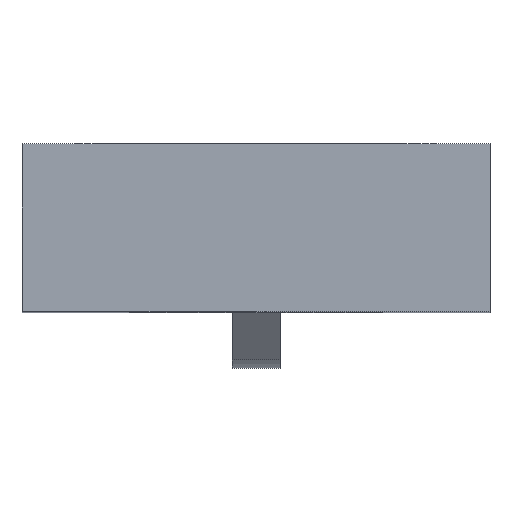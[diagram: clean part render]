
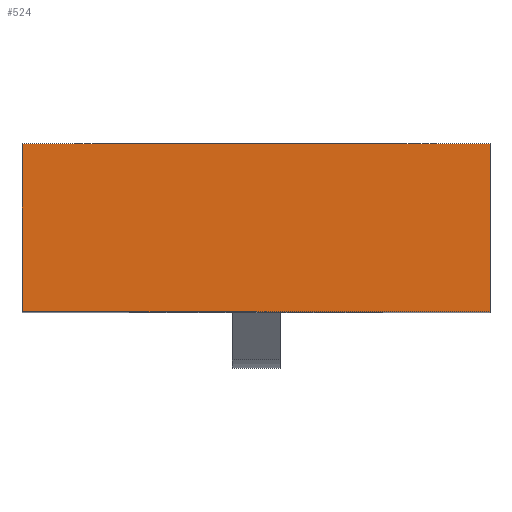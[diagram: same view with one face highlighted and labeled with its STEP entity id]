
A CAD part, top view. The second image highlights one B-rep face of the part: STEP entity #524.
In plain terms, the highlighted planar face has unit normal (0, 0, 1).
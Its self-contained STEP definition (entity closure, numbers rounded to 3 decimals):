
#220 = EDGE_CURVE('',#221,#223,#225,.T.);
#221 = VERTEX_POINT('',#222);
#222 = CARTESIAN_POINT('',(6.44,-1.298,20.003));
#223 = VERTEX_POINT('',#224);
#224 = CARTESIAN_POINT('',(-1.36,-1.298,20.003));
#225 = LINE('',#226,#227);
#226 = CARTESIAN_POINT('',(2.54,-1.298,20.003));
#227 = VECTOR('',#228,1.);
#228 = DIRECTION('',(-1.,0.,0.));
#498 = EDGE_CURVE('',#223,#499,#501,.T.);
#499 = VERTEX_POINT('',#500);
#500 = CARTESIAN_POINT('',(-1.36,1.503,20.003));
#501 = LINE('',#502,#503);
#502 = CARTESIAN_POINT('',(-1.36,-1.298,20.003));
#503 = VECTOR('',#504,1.);
#504 = DIRECTION('',(0.,1.,0.));
#524 = ADVANCED_FACE('',(#525),#543,.T.);
#525 = FACE_BOUND('',#526,.T.);
#526 = EDGE_LOOP('',(#527,#528,#536,#542));
#527 = ORIENTED_EDGE('',*,*,#220,.F.);
#528 = ORIENTED_EDGE('',*,*,#529,.T.);
#529 = EDGE_CURVE('',#221,#530,#532,.T.);
#530 = VERTEX_POINT('',#531);
#531 = CARTESIAN_POINT('',(6.44,1.503,20.003));
#532 = LINE('',#533,#534);
#533 = CARTESIAN_POINT('',(6.44,-1.298,20.003));
#534 = VECTOR('',#535,1.);
#535 = DIRECTION('',(0.,1.,0.));
#536 = ORIENTED_EDGE('',*,*,#537,.T.);
#537 = EDGE_CURVE('',#530,#499,#538,.T.);
#538 = LINE('',#539,#540);
#539 = CARTESIAN_POINT('',(-1.36,1.503,20.003));
#540 = VECTOR('',#541,1.);
#541 = DIRECTION('',(-1.,0.,0.));
#542 = ORIENTED_EDGE('',*,*,#498,.F.);
#543 = PLANE('',#544);
#544 = AXIS2_PLACEMENT_3D('',#545,#546,#547);
#545 = CARTESIAN_POINT('',(-1.36,-1.298,20.003));
#546 = DIRECTION('',(0.,0.,1.));
#547 = DIRECTION('',(0.,-1.,0.));
